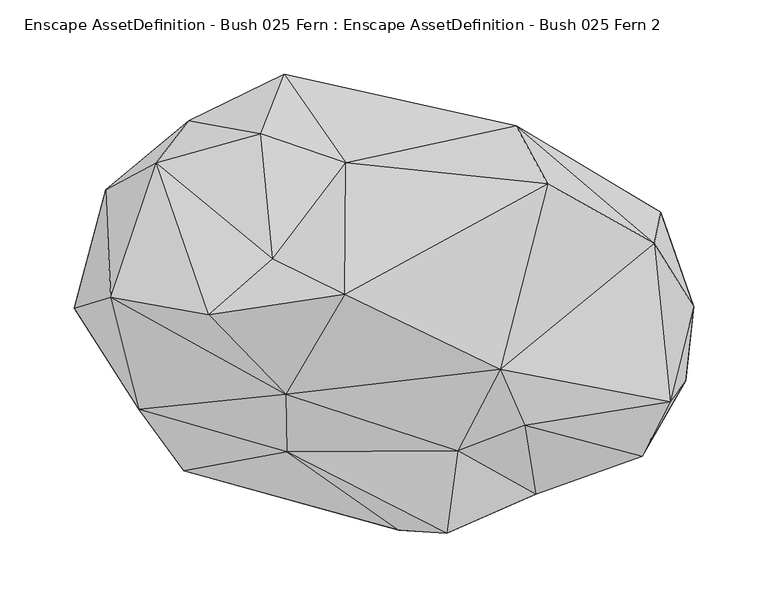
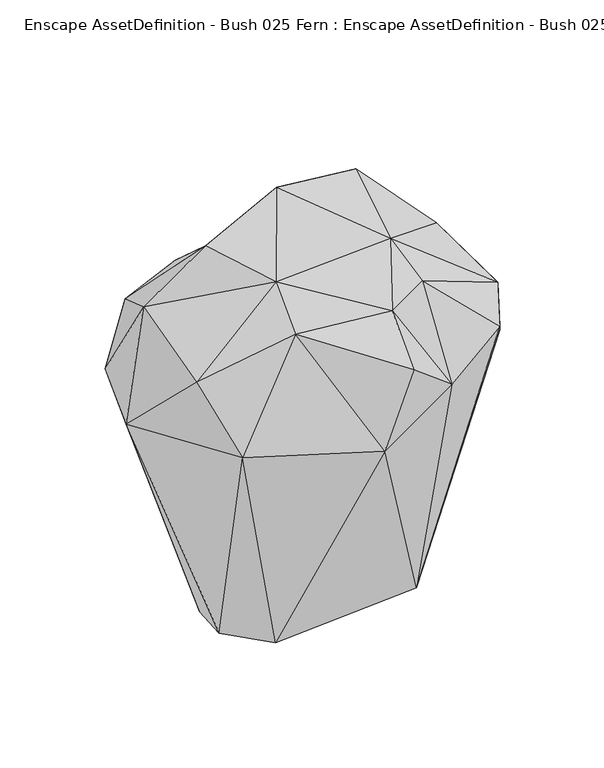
"""IFC4 building model written with IfcOpenShell, lengths in millimetres: geographic element geometry, Enscape AssetDefinition - Bush 025 Fern : Enscape AssetDefinition - Bush 025 Fern 2."""

from ifc_helpers import new_model, si_unit, origin, place, context, project, spatial, triangles, source, transform, mapped, element, save


def enscape_assetdefinition_bush_025_fern_enscape_ed9dc602(model_context):
    return source(origin(), model_context, "Body", "Tessellation", [
        triangles([(48.7046625, 58.0662686, 0.0), (74.3837092, 129.3166252, 334.4105836), (171.6053866, 71.0765346, 246.1044366), (112.4531196, 4.8992314, 0.0), (78.5507468, 40.5567087, 0.0), (193.9249545, 7.2742431, 268.3609633), (188.3535104, -42.5794731, 277.8840739), (177.9151577, -56.4511419, 348.8375373), (159.0642735, -93.4099597, 323.5707656), (84.0375757, -53.3408575, 0.0), (80.1597238, -72.3809471, 395.0902737), (87.5831715, -118.8921161, 291.3619576), (34.8637581, -89.5074908, 383.5290244), (27.5295265, -145.2633444, 346.8932519), (95.563462, 90.2781378, 430.1740334), (63.6761642, -34.726857, 430.976964), (167.2629736, 50.342871, 362.1970053), (-41.1366242, 15.9005806, 500.0000038), (-180.0179, -61.7087788, 352.9845952), (-80.890375, -51.6595829, 437.1144527), (-80.3258564, -90.4458056, 395.6133159), (-4.9638362, -143.0129458, 255.1461086), (-149.6580435, -103.1899587, 273.423227), (-202.3712957, 86.3541404, 287.7532934), (-198.8072509, 13.7516872, 408.0898072), (-132.8822324, 1.8304819, 467.8573437), (-168.265892, 104.5466709, 352.424673), (-223.5418422, 6.5697383, 274.972224), (-129.1997264, 20.0691579, 0.0), (-130.9194525, -22.4441696, 0.0), (-89.4090411, -65.8942746, 0.0), (-146.3108913, 132.8914524, 284.7060775), (-82.0732698, 164.065022, 268.4701499), (-21.5335444, 69.3583482, 0.0), (-84.623641, 63.7730696, 0.0), (-97.9077048, 123.9144022, 363.813658), (-89.9012712, 39.5830172, 440.5477824), (-40.7305308, 104.5543558, 384.7457743)], [[1, 34, 33], [18, 15, 38], [18, 38, 37], [36, 37, 38], [38, 33, 36], [32, 36, 33], [33, 34, 35], [35, 32, 33], [23, 31, 22], [23, 30, 31], [30, 23, 28], [28, 29, 30], [32, 35, 24], [29, 28, 24], [24, 35, 29], [32, 27, 36], [27, 37, 36], [27, 32, 24], [18, 37, 26], [27, 26, 37], [26, 27, 25], [25, 24, 28], [27, 24, 25], [23, 19, 28], [25, 28, 19], [22, 14, 21], [23, 21, 19], [21, 23, 22], [20, 26, 25], [20, 25, 19], [18, 26, 20], [20, 19, 21], [18, 16, 15], [15, 16, 17], [18, 20, 16], [16, 20, 13], [13, 21, 14], [13, 20, 21], [12, 14, 22], [13, 14, 12], [13, 12, 11], [16, 13, 11], [16, 8, 17], [8, 16, 11], [9, 8, 11], [11, 12, 9], [10, 12, 22], [12, 10, 9], [22, 31, 10], [7, 8, 9], [10, 7, 9], [8, 6, 17], [7, 6, 8], [7, 10, 4], [7, 4, 6], [4, 3, 6], [3, 17, 6], [3, 4, 5], [38, 2, 33], [2, 38, 15], [1, 2, 5], [3, 2, 17], [1, 33, 2], [5, 2, 3], [2, 15, 17]], closed=False),
    ])


if __name__ == "__main__":
    model = new_model("IFC4")
    model_context = context("Model", 3, world=origin())
    ifc_project = project(units=[si_unit("LENGTHUNIT", "METRE", prefix="MILLI")], contexts=[model_context])
    site = spatial("IfcSite", under=ifc_project)
    building = spatial("IfcBuilding", under=site)
    placement = place(None, origin())
    enscape_assetdefinition_bush_025_fern_enscape_shape = enscape_assetdefinition_bush_025_fern_enscape_ed9dc602(model_context)
    element("IfcGeographicElement", 1, ObjectType="Enscape AssetDefinition - Bush 025 Fern : Enscape AssetDefinition - Bush 025 Fern 2", at=placement, inside=building, context=model_context, shape_type="MappedRepresentation", body=[
        mapped(enscape_assetdefinition_bush_025_fern_enscape_shape, transform((0.0, 0.0, 0.0), x_axis=(1.0, 0.0, 0.0), y_axis=(0.0, 1.0, 0.0), z_axis=(0.0, 0.0, 1.0))),
    ])
    save(model, "model.ifc")
